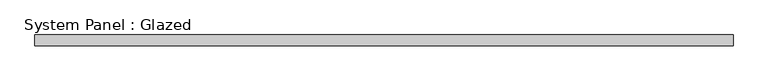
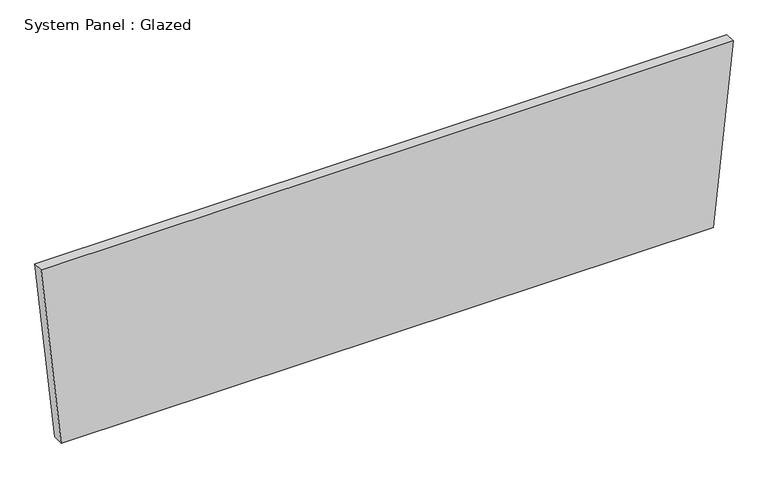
"""IFC4 building model written with IfcOpenShell, lengths in millimetres: plate geometry, System Panel : Glazed."""

from ifc_helpers import new_model, si_unit, frame, origin, place, context, project, spatial, polyline, outline, extrude, source, transform, mapped, element, save


def system_panel_glazed_44ceaade(model_context):
    return source(origin(), model_context, "Body", "SweptSolid", [
        extrude(outline(polyline([(0.0, -781.1125719), (0.0, 781.1125719), (455.8848707, 829.0464249), (455.8848707, -829.0464249), (0.0, -781.1125719)])), frame((0.0, -44.45, 0.0), z_axis=(0.0, 1.0, 0.0), x_axis=(0.0, 0.0, 1.0)), (0.0, 0.0, 1.0), 25.4),
    ])


if __name__ == "__main__":
    model = new_model("IFC4")
    model_context = context("Model", 3, world=origin())
    ifc_project = project(units=[si_unit("LENGTHUNIT", "METRE", prefix="MILLI")], contexts=[model_context])
    site = spatial("IfcSite", under=ifc_project)
    building = spatial("IfcBuilding", under=site)
    placement = place(None, origin())
    system_panel_glazed_shape = system_panel_glazed_44ceaade(model_context)
    element("IfcPlate", 1, ObjectType="System Panel : Glazed", at=placement, inside=building, context=model_context, shape_type="MappedRepresentation", body=[
        mapped(system_panel_glazed_shape, transform((0.0, 0.0, 0.0), x_axis=(1.0, 0.0, 0.0), y_axis=(0.0, 1.0, 0.0), z_axis=(0.0, 0.0, 1.0))),
    ])
    save(model, "model.ifc")
